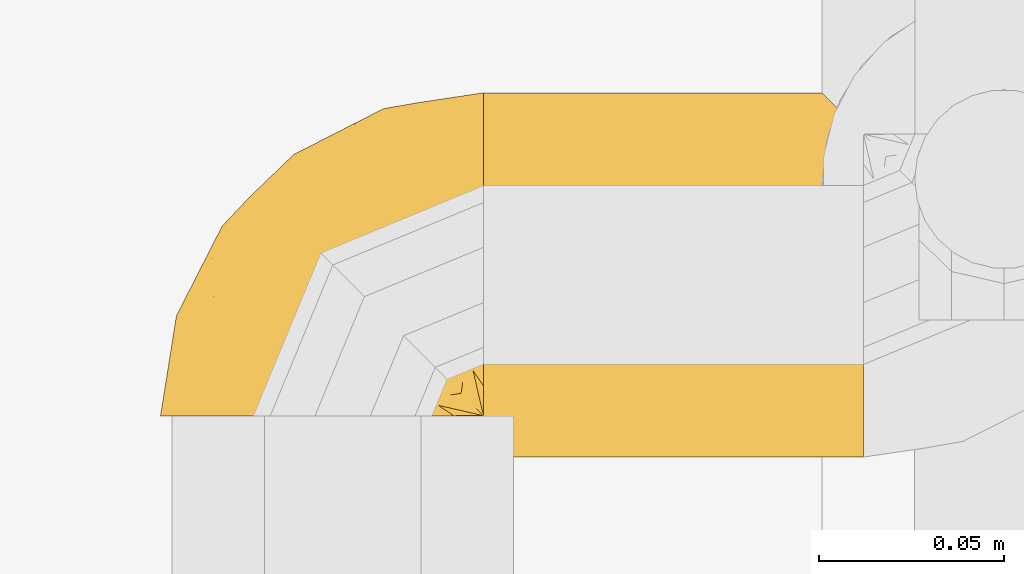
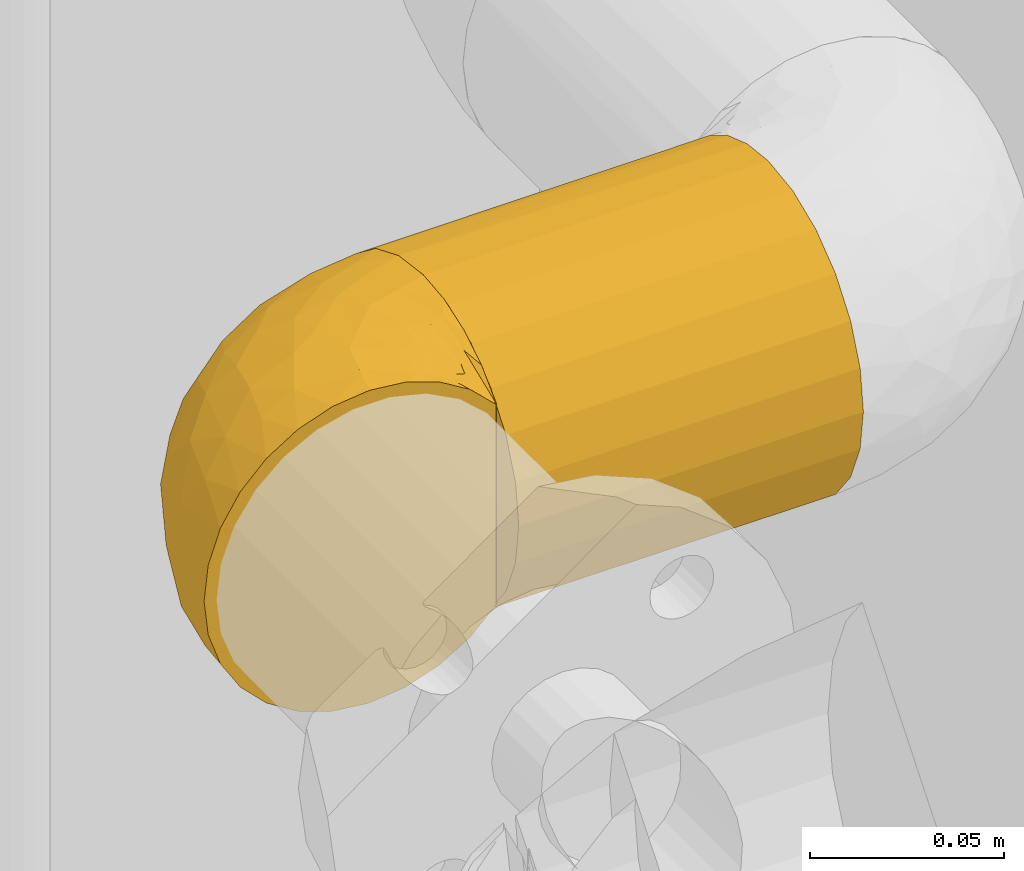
# One storey, part 40 of 94: 2 coverings.
"""IFC2X3 building model written with IfcOpenShell, lengths in millimetres."""

from ifc_helpers import new_model, entity, si_unit, converted_unit, derived_unit, direction, frame, origin, place, context, subcontext, project, spatial, faceted_brep, material, element, save


model = new_model("IFC2X3")

# Units and contexts
model_context = context("Model", 3, precision=0.01, world=origin(), true_north=direction((6.123031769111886e-17, 1.0)))
body_context = subcontext(model_context, "Body", "Model", "MODEL_VIEW")
ifc_project = project(units=[si_unit("LENGTHUNIT", "METRE", prefix="MILLI"), si_unit("AREAUNIT", "SQUARE_METRE"), si_unit("VOLUMEUNIT", "CUBIC_METRE"), converted_unit("PLANEANGLEUNIT", "DEGREE", entity("IfcRatioMeasure", 0.017453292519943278), si_unit("PLANEANGLEUNIT", "RADIAN"), dimensions=[0, 0, 0, 0, 0, 0, 0]), si_unit("MASSUNIT", "GRAM", prefix="KILO"), derived_unit("MASSDENSITYUNIT", [(si_unit("MASSUNIT", "GRAM", prefix="KILO"), 1), (si_unit("LENGTHUNIT", "METRE"), -3)]), derived_unit("IONCONCENTRATIONUNIT", [(si_unit("MASSUNIT", "GRAM", prefix="KILO"), 1), (si_unit("LENGTHUNIT", "METRE"), -3)]), derived_unit("MOMENTOFINERTIAUNIT", [(si_unit("LENGTHUNIT", "METRE"), 4)]), si_unit("TIMEUNIT", "SECOND"), si_unit("FREQUENCYUNIT", "HERTZ"), si_unit("THERMODYNAMICTEMPERATUREUNIT", "DEGREE_CELSIUS"), derived_unit("THERMALTRANSMITTANCEUNIT", [(si_unit("MASSUNIT", "GRAM", prefix="KILO"), 1), (si_unit("THERMODYNAMICTEMPERATUREUNIT", "KELVIN"), -1), (si_unit("TIMEUNIT", "SECOND"), -3)]), derived_unit("THERMALCONDUCTANCEUNIT", [(si_unit("MASSUNIT", "GRAM", prefix="KILO"), 1), (si_unit("THERMODYNAMICTEMPERATUREUNIT", "KELVIN"), -1), (si_unit("TIMEUNIT", "SECOND"), -3), (si_unit("LENGTHUNIT", "METRE"), 1)]), derived_unit("VOLUMETRICFLOWRATEUNIT", [(si_unit("LENGTHUNIT", "METRE"), 3), (si_unit("TIMEUNIT", "SECOND"), -1)]), derived_unit("MASSFLOWRATEUNIT", [(si_unit("MASSUNIT", "GRAM", prefix="KILO"), 1), (si_unit("TIMEUNIT", "SECOND"), -1)]), derived_unit("ROTATIONALFREQUENCYUNIT", [(si_unit("TIMEUNIT", "SECOND"), -1)]), si_unit("ELECTRICCURRENTUNIT", "AMPERE"), si_unit("ELECTRICVOLTAGEUNIT", "VOLT"), si_unit("POWERUNIT", "WATT"), si_unit("FORCEUNIT", "NEWTON", prefix="KILO"), si_unit("ILLUMINANCEUNIT", "LUX"), si_unit("LUMINOUSFLUXUNIT", "LUMEN"), si_unit("LUMINOUSINTENSITYUNIT", "CANDELA"), derived_unit("USERDEFINED", [(si_unit("MASSUNIT", "GRAM", prefix="KILO"), -1), (si_unit("LENGTHUNIT", "METRE"), -2), (si_unit("TIMEUNIT", "SECOND"), 3), (si_unit("LUMINOUSFLUXUNIT", "LUMEN"), 1)]), derived_unit("USERDEFINED", [(si_unit("MASSUNIT", "GRAM", prefix="KILO"), 1), (si_unit("TIMEUNIT", "SECOND"), -3), (si_unit("LENGTHUNIT", "METRE"), 3), (si_unit("ELECTRICCURRENTUNIT", "AMPERE"), -2)]), derived_unit("SOUNDPOWERUNIT", [(si_unit("MASSUNIT", "GRAM", prefix="KILO"), 1), (si_unit("TIMEUNIT", "SECOND"), -3), (si_unit("LENGTHUNIT", "METRE"), 2)]), derived_unit("SOUNDPRESSUREUNIT", [(si_unit("MASSUNIT", "GRAM", prefix="KILO"), 1), (si_unit("LENGTHUNIT", "METRE"), -1), (si_unit("TIMEUNIT", "SECOND"), -2)]), derived_unit("LINEARVELOCITYUNIT", [(si_unit("LENGTHUNIT", "METRE"), 1), (si_unit("TIMEUNIT", "SECOND"), -1)]), si_unit("PRESSUREUNIT", "PASCAL"), derived_unit("USERDEFINED", [(si_unit("MASSUNIT", "GRAM", prefix="KILO"), 1), (si_unit("LENGTHUNIT", "METRE"), -2), (si_unit("TIMEUNIT", "SECOND"), -2)]), derived_unit("LINEARFORCEUNIT", [(si_unit("MASSUNIT", "GRAM", prefix="KILO"), 1), (si_unit("TIMEUNIT", "SECOND"), -2)]), derived_unit("PLANARFORCEUNIT", [(si_unit("MASSUNIT", "GRAM", prefix="KILO"), 1), (si_unit("LENGTHUNIT", "METRE"), -1), (si_unit("TIMEUNIT", "SECOND"), -2)]), derived_unit("SPECIFICHEATCAPACITYUNIT", [(si_unit("THERMODYNAMICTEMPERATUREUNIT", "KELVIN"), -1), (si_unit("LENGTHUNIT", "METRE"), 2), (si_unit("TIMEUNIT", "SECOND"), -2)]), derived_unit("HEATINGVALUEUNIT", [(si_unit("LENGTHUNIT", "METRE"), 2), (si_unit("TIMEUNIT", "SECOND"), -2)]), derived_unit("VAPORPERMEABILITYUNIT", [(si_unit("LENGTHUNIT", "METRE"), -1), (si_unit("TIMEUNIT", "SECOND"), 1)]), derived_unit("DYNAMICVISCOSITYUNIT", [(si_unit("MASSUNIT", "GRAM", prefix="KILO"), 1), (si_unit("TIMEUNIT", "SECOND"), -1), (si_unit("LENGTHUNIT", "METRE"), -1)]), derived_unit("THERMALEXPANSIONCOEFFICIENTUNIT", [(si_unit("THERMODYNAMICTEMPERATUREUNIT", "KELVIN"), -1)]), derived_unit("MODULUSOFELASTICITYUNIT", [(si_unit("MASSUNIT", "GRAM", prefix="KILO"), 1), (si_unit("LENGTHUNIT", "METRE"), -1), (si_unit("TIMEUNIT", "SECOND"), -2)]), derived_unit("ISOTHERMALMOISTURECAPACITYUNIT", [(si_unit("LENGTHUNIT", "METRE"), 3), (si_unit("MASSUNIT", "GRAM", prefix="KILO"), -1)]), derived_unit("MOISTUREDIFFUSIVITYUNIT", [(si_unit("TIMEUNIT", "SECOND"), -1), (si_unit("LENGTHUNIT", "METRE"), 2)])], contexts=[model_context])

# Site, building, storey
site_placement = place(None, origin())
site = spatial("IfcSite", under=ifc_project, at=site_placement, Name="Default", CompositionType="ELEMENT")
building_placement = place(site_placement, origin())
building = spatial("IfcBuilding", under=site, at=building_placement, CompositionType="ELEMENT")
storey_placement = place(building_placement, origin())
storey = spatial("IfcBuildingStorey", under=building, at=storey_placement, Name="Niveau 0", CompositionType="ELEMENT", Elevation=0.0)

# Coverings
ifc_material = material(Name="Isolation - Laine minérale")
covering_1_placement = place(storey_placement, frame((-5929.413073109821, 9800.24516729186, 629.6137921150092)))
element("IfcCovering", 1, at=covering_1_placement, inside=storey, material=ifc_material, Name="Isolation des canalisations:Laine minérale", ObjectType="Isolation des canalisations:Laine minérale", PredefinedType="INSULATION", context=body_context, shape_type="Brep", body=[
    faceted_brep([(102.52263263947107, 61.510167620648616, -98.66860431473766), (102.52303490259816, 71.75428330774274, -95.13895567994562), (102.52368331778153, 80.97588518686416, -89.44945144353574), (102.52454627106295, 88.72559049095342, -81.87748755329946), (102.5316443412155, 88.72494168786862, -19.59563291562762), (102.53250725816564, 80.97527998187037, -12.023987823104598), (102.53315564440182, 71.75382109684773, -6.334737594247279), (102.533557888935, 61.50991986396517, -2.8052521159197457), (102.53369445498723, 50.725272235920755, -1.6069564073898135), (102.53350366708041, 38.009492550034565, -3.281020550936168), (102.53294430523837, 26.16027223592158, -8.18912827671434), (102.53205448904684, 15.985116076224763, -15.996800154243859), (102.53089485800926, 8.17744414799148, -26.171956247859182), (102.5295444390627, 3.2693363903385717, -38.02117648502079), (102.52809526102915, 1.5952722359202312, -50.73695608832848), (102.5266460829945, 3.2693363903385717, -63.45273569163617), (102.52529566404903, 8.17744414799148, -75.30195592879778), (102.52413603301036, 15.985116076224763, -85.47711202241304), (102.52324621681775, 26.16027223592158, -93.28478389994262), (102.52268685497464, 38.009492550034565, -98.19289162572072), (102.52249606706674, 50.725272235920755, -99.86695576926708), (0.002799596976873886, 93.2731003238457, -75.2902717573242), (0.0016399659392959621, 85.46542839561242, -85.46542785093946), (0.0007501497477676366, 75.29027223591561, -93.27309972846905), (0.00019078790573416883, 63.44105192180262, -98.18120745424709), (0.0, 50.72527223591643, -99.85527159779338), (0.00019078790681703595, 38.00949255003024, -98.18120745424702), (0.0007501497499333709, 26.160272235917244, -93.2730997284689), (0.0016399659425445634, 15.98511607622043, -85.46542785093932), (0.0027995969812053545, 8.17744414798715, -75.29027175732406), (0.0041500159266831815, 3.26933639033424, -63.44105152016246), (0.005599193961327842, 1.5952722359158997, -50.72527191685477), (0.007048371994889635, 3.26933639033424, -38.00949231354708), (0.008398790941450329, 8.17744414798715, -26.16027207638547), (0.009558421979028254, 15.98511607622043, -15.985115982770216), (0.01044823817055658, 26.160272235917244, -8.177444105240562), (0.011007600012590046, 38.00949255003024, -3.2693363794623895), (0.011198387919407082, 50.72527223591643, -1.5952722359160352), (0.01100760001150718, 63.44105192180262, -3.269336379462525), (0.010448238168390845, 75.29027223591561, -8.177444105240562), (0.009558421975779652, 85.46542839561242, -15.985115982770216), (0.008398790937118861, 93.2731003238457, -26.160272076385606), (0.007048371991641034, 98.18120808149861, -38.009492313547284), (0.005599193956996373, 99.85527223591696, -50.72527191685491), (0.0041500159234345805, 98.18120808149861, -63.441051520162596), (94.26239108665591, 96.98925680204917, -67.27084505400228), (92.1190248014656, 99.13346607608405, -59.126459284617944), (91.3980873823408, 99.85527223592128, -50.73568763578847), (97.76520659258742, 93.48564882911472, -74.92953422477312), (92.12080623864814, 99.13342237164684, -42.34482837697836), (94.2659877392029, 96.98908455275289, -34.20070155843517), (97.77059508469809, 93.4852707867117, -26.54262477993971)], [[[0, 1, 2, 3, 4, 5, 6, 7, 8, 9, 10, 11, 12, 13, 14, 15, 16, 17, 18, 19, 20]], [[21, 22, 23, 24, 25, 26, 27, 28, 29, 30, 31, 32, 33, 34, 35, 36, 37, 38, 39, 40, 41, 42, 43, 44]], [[30, 29, 16, 15]], [[31, 30, 15, 14]], [[29, 28, 17, 16]], [[19, 18, 27, 26]], [[20, 19, 26, 25]], [[28, 27, 18, 17]], [[0, 25, 24]], [[1, 24, 23]], [[2, 23, 22]], [[20, 25, 0]], [[0, 24, 1]], [[23, 2, 1]], [[22, 3, 2]], [[45, 21, 44]], [[44, 43, 46]], [[47, 46, 43]], [[48, 3, 21]], [[46, 45, 44]], [[48, 21, 45]], [[21, 3, 22]], [[49, 47, 43]], [[49, 43, 42]], [[50, 42, 41]], [[50, 49, 42]], [[4, 51, 41]], [[50, 41, 51]], [[41, 40, 4]], [[5, 40, 39]], [[6, 39, 38]], [[7, 38, 37]], [[5, 39, 6]], [[6, 38, 7]], [[37, 8, 7]], [[40, 5, 4]], [[9, 8, 37, 36]], [[10, 9, 36, 35]], [[35, 34, 11, 10]], [[13, 12, 33, 32]], [[14, 13, 32, 31]], [[34, 33, 12, 11]], [[47, 49, 50, 51, 4, 3, 48, 45, 46]]]),
])
covering_2_placement = place(storey_placement, frame((-6018.152716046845, 9811.375129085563, 629.6381228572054)))
element("IfcCovering", 2, at=covering_2_placement, inside=storey, material=ifc_material, Name="Isolation des canalisations:Laine minérale", ObjectType="Isolation des canalisations:Laine minérale", PredefinedType="INSULATION", context=body_context, shape_type="Brep", body=[
    faceted_brep([(39.80836428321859, 1.5953019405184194, -2.8275658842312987), (29.41718071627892, 1.5952938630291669, -6.463955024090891), (20.097630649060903, 1.5952866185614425, -12.320740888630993), (12.316039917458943, 1.5952805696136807, -20.103525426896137), (6.4616575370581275, 1.595276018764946, -29.42195140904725), (2.8273860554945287, 1.5952731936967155, -39.80915219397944), (1.5952722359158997, 1.5952722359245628, -50.73967043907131), (2.827565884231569, 1.5952731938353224, -61.68217955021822), (6.463955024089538, 1.5952760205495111, -72.07336311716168), (12.320740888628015, 1.5952805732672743, -81.3929131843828), (20.103525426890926, 1.5952866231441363, -89.17450391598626), (29.421951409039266, 1.595293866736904, -95.0288862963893), (39.80915219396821, 1.595301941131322, -98.66315777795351), (50.73967043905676, 1.5953104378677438, -99.89527159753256), (61.398878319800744, 1.5953187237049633, -98.72675970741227), (71.54747702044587, 1.5953266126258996, -95.27605635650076), (80.70449791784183, 1.5953337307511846, -89.7089380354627), (88.42802658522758, 1.5953397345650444, -82.30050128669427), (88.42830515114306, 1.595339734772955, -79.85623100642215), (88.4285076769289, 1.5953397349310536, -78.07917311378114), (88.42871020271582, 1.5953397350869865, -76.30211522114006), (88.42888110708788, 1.595339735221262, -74.80251870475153), (88.42905201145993, 1.5953397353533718, -73.30292218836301), (88.42939382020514, 1.5953397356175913, -70.30372915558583), (88.42973562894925, 1.5953397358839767, -67.30453612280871), (88.43007743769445, 1.5953397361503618, -64.30534309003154), (88.43041924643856, 1.5953397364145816, -61.3061500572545), (88.43059015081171, 1.595339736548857, -59.806553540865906), (88.43076105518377, 1.5953397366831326, -58.30695702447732), (88.43103962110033, 1.595339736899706, -55.86268674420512), (88.43131818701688, 1.5953397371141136, -53.418416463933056), (88.43159675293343, 1.595339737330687, -50.97414618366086), (88.43187531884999, 1.5953397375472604, -48.529875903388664), (88.43215388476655, 1.5953397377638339, -46.0856056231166), (88.43243245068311, 1.5953397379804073, -43.6413353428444), (88.43271101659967, 1.5953397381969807, -41.1970650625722), (88.43298958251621, 1.59533973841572, -38.75279478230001), (88.43326814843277, 1.5953397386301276, -36.30852450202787), (88.43354671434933, 1.595339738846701, -33.86425422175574), (88.43382528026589, 1.5953397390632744, -31.419983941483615), (88.43410384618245, 1.5953397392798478, -28.975713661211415), (88.43438241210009, 1.5953397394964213, -26.531443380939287), (88.43466097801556, 1.5953397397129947, -24.087173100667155), (88.43493954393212, 1.5953397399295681, -21.642902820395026), (88.43521810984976, 1.5953397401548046, -19.198632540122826), (80.69676603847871, 1.595333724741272, -11.775661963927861), (71.53619248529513, 1.59532660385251, -6.209217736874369), (61.38935748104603, 1.5953187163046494, -2.7616711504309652), (50.75087339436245, 1.595310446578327, -1.5952722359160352), (88.7416463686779, 1.9089597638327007, -82.3005370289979), (88.74080104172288, 9.642029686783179, -89.71783911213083), (88.74016679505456, 18.798747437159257, -95.28302203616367), (88.73977377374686, 28.9439038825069, -98.73157852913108), (88.73964065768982, 39.59531044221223, -99.8996023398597), (88.7398315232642, 52.316266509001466, -98.22485671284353), (88.74039111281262, 64.17031044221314, -93.31475097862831), (88.74128129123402, 74.349608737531, -85.50390072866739), (88.74244139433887, 82.16045903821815, -75.32460249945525), (88.74379236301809, 87.07056480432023, -63.470558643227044), (88.7452421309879, 88.74531044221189, -50.74960265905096), (88.74669189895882, 87.07056480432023, -38.02864667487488), (88.74804286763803, 82.16045903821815, -26.174602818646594), (88.74920297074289, 74.349608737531, -15.995304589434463), (88.75009314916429, 64.17031044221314, -8.184454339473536), (88.7506527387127, 52.316266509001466, -3.274348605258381), (88.75084360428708, 39.59531044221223, -1.599602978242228), (88.75071048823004, 28.94390388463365, -2.767626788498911), (88.75031746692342, 18.798747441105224, -6.2161832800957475), (88.74968322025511, 9.642029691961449, -11.781366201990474), (88.74883789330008, 1.908959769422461, -19.19866828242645), (88.74855932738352, 1.9089597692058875, -21.642938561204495), (88.74838842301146, 1.9089597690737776, -23.14253507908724), (88.74816368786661, 1.9089597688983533, -25.114468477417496), (88.74793895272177, 1.9089597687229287, -27.086401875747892), (88.747714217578, 1.90895976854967, -29.058335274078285), (88.74748948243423, 1.9089597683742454, -31.030268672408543), (88.74726474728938, 1.908959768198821, -33.00220207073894), (88.74704001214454, 1.9089597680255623, -34.97413546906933), (88.74681527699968, 1.9089597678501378, -36.946068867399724), (88.74659054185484, 1.9089597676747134, -38.91800226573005), (88.74636580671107, 1.9089597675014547, -40.889935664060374), (88.74614107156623, 1.9089597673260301, -42.86186906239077), (88.74591633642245, 1.9089597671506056, -44.83380246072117), (88.74569160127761, 1.9089597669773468, -46.805735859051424), (88.74546686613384, 1.9089597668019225, -48.77766925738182), (88.745242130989, 1.908959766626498, -50.74960265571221), (88.74501739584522, 1.9089597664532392, -52.7215360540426), (88.74479266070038, 1.9089597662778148, -54.69346945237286), (88.74456792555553, 1.9089597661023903, -56.66540285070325), (88.74434319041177, 1.9089597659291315, -58.63733624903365), (88.74411845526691, 1.908959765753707, -60.60926964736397), (88.74389372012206, 1.9089597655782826, -62.5812030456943), (88.7436689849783, 1.9089597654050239, -64.5531364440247), (88.74344424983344, 1.9089597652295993, -66.52506984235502), (88.74310244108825, 1.908959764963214, -69.52426287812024), (88.74276063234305, 1.9089597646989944, -72.52345591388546), (88.74248206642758, 1.908959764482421, -74.96772619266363), (88.74220350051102, 1.9089597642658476, -77.41199647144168), (88.74192493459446, 1.9089597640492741, -79.85626675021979), (88.53121388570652, 1.8242557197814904, -47.741504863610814), (88.52220161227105, 1.8156919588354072, -49.66207763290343), (88.52241416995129, 1.8147909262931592, -40.02193294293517), (88.5292105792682, 1.821292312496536, -37.93201027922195), (88.54058279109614, 1.8332471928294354, -53.49381821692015), (88.53805484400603, 1.8280844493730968, -24.244826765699), (88.49468897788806, 1.779345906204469, -20.795673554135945), (88.51712547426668, 1.8115602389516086, -59.05676567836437), (88.5203014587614, 1.8171025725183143, -78.63410645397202), (88.52248274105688, 1.8190568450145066, -76.79466273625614), (88.51885259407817, 1.8098984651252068, -30.124737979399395), (88.52929521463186, 1.820289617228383, -28.090985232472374), (88.50393755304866, 1.7965299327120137, -57.08483073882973), (88.52815596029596, 1.8230746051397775, -63.567145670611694), (88.53189964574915, 1.8263646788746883, -61.6817744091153), (88.51413677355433, 1.8091714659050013, -65.53907746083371), (88.52899897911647, 1.8225950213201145, -51.73554485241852), (88.52671111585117, 1.8171025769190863, -22.392711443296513), (88.5225009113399, 1.819485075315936, -80.46730937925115), (88.53718058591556, 1.8295058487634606, -45.81974491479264), (88.53935863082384, 1.8302423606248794, -33.98814467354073), (88.53439623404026, 1.8259563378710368, -35.88028673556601), (88.53233604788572, 1.8273579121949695, -67.39028944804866), (88.53444527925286, 1.8268446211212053, -43.94266570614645), (88.53771053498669, 1.8279644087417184, -26.10041099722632), (88.5270751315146, 1.8171025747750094, -19.19864300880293), (88.49844509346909, 1.7479834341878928, -19.198639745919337), (88.46981505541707, 1.6788642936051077, -19.19863648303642), (88.51988360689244, 1.8171025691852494, -82.30051175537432), (88.58900272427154, 1.845732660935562, -82.3005196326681), (88.65812184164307, 1.8743627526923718, -82.30052750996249), (88.50786416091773, 1.8027221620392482, -69.28271089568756), (88.53252445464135, 1.823808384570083, -32.05923504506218), (88.52192440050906, 1.8160551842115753, -55.246547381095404), (88.52567047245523, 1.8182905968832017, -42.00422087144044), (88.50333249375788, 1.7978420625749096, -72.07560902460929), (88.52475549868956, 1.8209659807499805, -74.0527315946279), (88.66531336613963, 1.8743627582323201, -19.198658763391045), (88.5961942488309, 1.8457326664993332, -19.198650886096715), (88.46262353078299, 1.678864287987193, -82.30050522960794), (88.4912535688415, 1.7479834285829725, -82.30050849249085), (85.21547066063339, 23.495274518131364, -97.28419472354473), (85.93129678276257, 13.747819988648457, -92.75038974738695), (81.07275177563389, 22.409836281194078, -97.28372262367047), (83.12822402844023, 10.562581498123, -91.53866223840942), (79.23964383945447, 37.04979263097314, -99.89851965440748), (55.8306912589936, 20.595308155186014, -99.89585180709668), (66.39007783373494, 16.020186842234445, -98.55682739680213), (67.93507634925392, 9.261722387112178, -97.27905705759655), (69.73964702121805, 34.50427481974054, -99.89743696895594), (80.66909527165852, 9.667906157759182, -92.08861708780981), (79.78424769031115, 7.202962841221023, -91.53037748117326), (74.31562813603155, 23.94477676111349, -98.55758665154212), (66.84938288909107, 5.119438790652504, -97.27893325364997), (76.59854948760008, 4.40294863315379, -92.74285109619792), (79.64397043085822, 17.541560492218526, -95.80321445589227), (52.73759270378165, 9.051677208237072, -99.89549929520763), (53.285180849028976, 11.095309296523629, -99.89556170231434), (73.60641638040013, 16.728881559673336, -97.01052064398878), (62.78516914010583, 27.549791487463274, -99.8966443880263), (73.87474920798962, 12.071603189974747, -95.7271229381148), (75.22717219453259, 47.954939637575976, -98.80910346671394), (78.87531086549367, 57.54114584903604, -96.15715748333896), (67.00025556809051, 54.07988134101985, -96.15580455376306), (37.51975316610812, 72.10113121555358, -50.743764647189), (61.81440748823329, 84.47988309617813, -50.74653343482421), (53.87399671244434, 80.2480536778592, -61.15116206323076), (67.10055928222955, 82.14720762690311, -69.55602548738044), (25.780191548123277, 13.851455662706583, -92.36345595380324), (36.23888461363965, 15.165308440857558, -97.13784589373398), (29.56078771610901, 60.77768250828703, -68.84117496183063), (30.767583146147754, 55.38586642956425, -77.71935791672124), (15.290469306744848, 43.897390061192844, -65.87117730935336), (71.31280747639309, 86.12652123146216, -59.79675239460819), (53.15798416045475, 33.37334515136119, -98.92756753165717), (65.90318880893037, 44.0011224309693, -98.83460123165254), (75.2864096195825, 77.40376868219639, -80.66869325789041), (71.16165474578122, 67.2015954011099, -89.74091646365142), (47.23868877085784, 73.23171908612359, -70.98032046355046), (37.095210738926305, 52.82914246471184, -85.50464261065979), (44.510459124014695, 48.878991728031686, -91.98013609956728), (33.70026964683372, 40.60724433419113, -90.08283367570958), (44.046311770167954, 28.769971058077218, -97.7662492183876), (30.03931979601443, 27.44846663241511, -92.36394180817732), (18.308362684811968, 19.800375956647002, -85.50249988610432), (43.500556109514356, 64.74741750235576, -79.74128592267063), (5.86067861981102, 28.526110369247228, -50.74015655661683), (7.039539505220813, 22.715624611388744, -66.98021215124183), (25.61077444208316, 42.31751132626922, -82.95174243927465), (15.883913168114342, 33.68384026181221, -76.89837714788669), (10.597417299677, 16.806982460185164, -76.89777490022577), (38.502414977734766, 71.07861068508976, -62.41327123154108), (25.344187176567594, 60.33250898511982, -59.14146465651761), (59.13306948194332, 72.66774963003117, -80.66685237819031), (53.843073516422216, 58.89973894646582, -90.35931628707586), (18.239411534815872, 52.82077447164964, -50.74156732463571), (52.689431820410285, 43.46545542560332, -96.76831952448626), (67.10655292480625, 82.14766609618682, -31.938246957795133), (71.3149955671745, 86.12657846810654, -41.69864368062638), (47.24282936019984, 73.23129470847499, -30.50913531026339), (59.14438361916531, 72.66962175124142, -20.825604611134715), (75.29588998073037, 77.40424084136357, -20.827445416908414), (37.093723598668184, 52.83847618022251, -15.996042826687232), (43.517803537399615, 64.75605345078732, -21.748739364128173), (30.7898141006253, 55.414532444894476, -23.77838653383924), (38.51218060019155, 71.08305979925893, -39.072201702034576), (53.87680560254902, 80.24816008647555, -40.33972654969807), (36.23678492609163, 15.170039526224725, -4.354099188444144), (79.2508467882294, 37.04979263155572, -1.5985202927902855), (75.2381269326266, 47.95493963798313, -2.687021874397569), (65.91414960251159, 44.00112243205, -2.659398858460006), (7.038132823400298, 22.714680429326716, -34.51382417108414), (71.17054264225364, 67.20159540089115, -11.754281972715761), (67.01060574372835, 54.079881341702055, -5.338445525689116), (78.88566103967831, 57.541145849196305, -5.339799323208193), (30.035236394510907, 27.454672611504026, -9.131256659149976), (25.774978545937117, 13.854028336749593, -9.13077158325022), (53.84549946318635, 58.89798233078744, -11.133354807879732), (25.357992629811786, 60.34782648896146, -42.353032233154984), (29.562374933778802, 60.780219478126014, -32.65360191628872), (10.594242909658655, 16.809118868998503, -24.598537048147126), (44.05520552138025, 28.78674470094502, -3.7258959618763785), (52.70334243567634, 43.47308479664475, -4.724000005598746), (44.50126799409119, 48.87626491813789, -9.515933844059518), (15.288940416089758, 43.900868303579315, -35.62998882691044), (15.881188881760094, 33.687379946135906, -24.599139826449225), (18.303452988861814, 19.80369255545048, -15.993902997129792), (25.607457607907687, 42.34244745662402, -18.55899270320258), (55.841894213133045, 20.59530815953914, -1.5958524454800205), (69.75084997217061, 34.50427482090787, -1.5974376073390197), (52.748795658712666, 9.051677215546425, -1.5954999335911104), (53.296383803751, 11.095309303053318, -1.5955623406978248), (53.17253851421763, 33.380916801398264, -2.564007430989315), (62.79637209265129, 27.549791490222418, -1.5966450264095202), (33.68050955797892, 40.612528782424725, -11.423678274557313), (81.0833586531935, 22.409835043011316, -4.213735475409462), (78.27077341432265, 16.464293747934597, -5.767057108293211), (74.32616108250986, 23.943322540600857, -2.938575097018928), (85.2260774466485, 23.495273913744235, -4.214207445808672), (85.94087033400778, 13.74781942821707, -8.748175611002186), (83.13720143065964, 10.564926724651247, -9.957813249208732), (82.68641427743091, 7.6567099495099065, -11.38138467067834), (73.6223397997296, 16.72350343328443, -4.487965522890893), (79.76239640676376, 7.216568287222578, -9.944185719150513), (67.923732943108, 9.26322984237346, -4.208225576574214), (66.83863157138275, 5.119641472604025, -4.208101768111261), (76.58924931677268, 4.40593393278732, -8.741999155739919), (66.40315283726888, 16.018664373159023, -2.9379170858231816), (72.78893801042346, 10.69218648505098, -5.687220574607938)], [[[0, 1, 2, 3, 4, 5, 6, 7, 8, 9, 10, 11, 12, 13, 14, 15, 16, 17, 18, 19, 20, 21, 22, 23, 24, 25, 26, 27, 28, 29, 30, 31, 32, 33, 34, 35, 36, 37, 38, 39, 40, 41, 42, 43, 44, 45, 46, 47, 48]], [[49, 50, 51, 52, 53, 54, 55, 56, 57, 58, 59, 60, 61, 62, 63, 64, 65, 66, 67, 68, 69, 70, 71, 72, 73, 74, 75, 76, 77, 78, 79, 80, 81, 82, 83, 84, 85, 86, 87, 88, 89, 90, 91, 92, 93, 94, 95, 96, 97, 98]], [[99, 100, 84]], [[101, 102, 36]], [[86, 103, 87]], [[72, 71, 104]], [[105, 70, 69]], [[28, 27, 106]], [[19, 107, 108]], [[109, 74, 110]], [[29, 28, 111]], [[26, 112, 113]], [[108, 97, 96]], [[114, 93, 92]], [[103, 86, 115]], [[97, 107, 98]], [[116, 71, 70]], [[107, 18, 117]], [[79, 102, 101]], [[99, 118, 33]], [[77, 119, 120]], [[121, 93, 114]], [[112, 91, 113]], [[89, 111, 106]], [[41, 40, 110]], [[107, 97, 108]], [[33, 118, 122]], [[92, 91, 112]], [[38, 120, 119]], [[85, 115, 86]], [[70, 105, 116]], [[72, 123, 73]], [[105, 124, 125, 126, 44]], [[117, 18, 17]], [[42, 116, 43]], [[117, 127, 128, 129, 49]], [[110, 123, 41]], [[43, 116, 105]], [[121, 24, 130]], [[25, 114, 112]], [[114, 25, 24]], [[104, 123, 72]], [[92, 112, 114]], [[104, 116, 42]], [[25, 112, 26]], [[110, 73, 123]], [[37, 120, 38]], [[41, 123, 42]], [[75, 74, 109]], [[131, 76, 75]], [[119, 131, 38]], [[109, 110, 40]], [[109, 40, 39]], [[74, 73, 110]], [[123, 104, 42]], [[116, 104, 71]], [[27, 26, 113]], [[113, 90, 106]], [[88, 87, 132]], [[113, 106, 27]], [[77, 76, 119]], [[132, 111, 88]], [[106, 111, 28]], [[132, 29, 111]], [[88, 111, 89]], [[89, 106, 90]], [[113, 91, 90]], [[131, 119, 76]], [[39, 38, 131]], [[120, 37, 102]], [[131, 109, 39]], [[109, 131, 75]], [[79, 78, 102]], [[78, 120, 102]], [[78, 77, 120]], [[122, 81, 133]], [[37, 36, 102]], [[34, 122, 133]], [[80, 79, 101]], [[35, 101, 36]], [[132, 30, 29]], [[81, 80, 133]], [[30, 103, 115]], [[31, 30, 115]], [[87, 103, 132]], [[100, 115, 85]], [[32, 31, 100]], [[115, 100, 31]], [[33, 32, 99]], [[118, 82, 122]], [[100, 85, 84]], [[99, 83, 118]], [[82, 118, 83]], [[34, 33, 122]], [[83, 99, 84]], [[100, 99, 32]], [[35, 34, 133]], [[122, 82, 81]], [[133, 101, 35]], [[101, 133, 80]], [[134, 95, 94]], [[24, 121, 114]], [[132, 103, 30]], [[121, 94, 93]], [[94, 121, 130]], [[98, 107, 117]], [[108, 21, 20, 19]], [[22, 135, 134]], [[21, 135, 22]], [[134, 135, 95]], [[108, 96, 135]], [[108, 135, 21]], [[135, 96, 95]], [[134, 23, 22]], [[130, 23, 134]], [[43, 105, 44]], [[105, 69, 136, 137, 124]], [[98, 117, 49]], [[117, 17, 138, 139, 127]], [[19, 18, 107]], [[94, 130, 134]], [[23, 130, 24]], [[140, 141, 142]], [[143, 129, 128, 127]], [[53, 52, 144]], [[145, 146, 147]], [[142, 148, 144]], [[149, 127, 150]], [[51, 140, 52]], [[142, 151, 148]], [[52, 140, 144]], [[129, 143, 141]], [[15, 14, 152]], [[147, 150, 153]], [[154, 141, 143]], [[150, 138, 153]], [[15, 152, 153]], [[17, 16, 138]], [[14, 13, 155, 156]], [[151, 154, 157]], [[158, 157, 146]], [[156, 147, 152]], [[15, 153, 16]], [[50, 49, 129]], [[50, 129, 141]], [[141, 51, 50]], [[159, 147, 146]], [[145, 147, 156]], [[138, 16, 153]], [[149, 157, 154]], [[150, 127, 139, 138]], [[141, 140, 51]], [[144, 140, 142]], [[156, 152, 14]], [[153, 152, 147]], [[148, 151, 158]], [[159, 146, 157]], [[146, 145, 158]], [[154, 151, 142]], [[158, 151, 157]], [[127, 149, 143]], [[159, 149, 150]], [[149, 159, 157]], [[147, 159, 150]], [[141, 154, 142]], [[154, 143, 149]], [[155, 13, 12]], [[53, 144, 160]], [[161, 55, 54]], [[160, 162, 161]], [[163, 164, 165]], [[57, 166, 58]], [[167, 168, 11]], [[169, 170, 171]], [[58, 172, 59]], [[158, 173, 174]], [[175, 57, 56]], [[176, 56, 55]], [[165, 166, 177]], [[57, 175, 166]], [[176, 55, 161]], [[178, 179, 180]], [[181, 145, 168]], [[168, 182, 181]], [[183, 182, 167]], [[183, 10, 9]], [[168, 145, 156, 155]], [[168, 12, 11]], [[169, 184, 170]], [[7, 185, 186]], [[187, 183, 188]], [[189, 183, 9]], [[171, 188, 186]], [[163, 190, 191]], [[187, 188, 170]], [[192, 176, 193]], [[9, 8, 189]], [[186, 8, 7]], [[7, 6, 185]], [[188, 189, 186]], [[169, 177, 184]], [[171, 185, 194]], [[193, 176, 162]], [[11, 10, 167]], [[144, 174, 160]], [[155, 12, 168]], [[175, 176, 192]], [[177, 166, 192]], [[172, 166, 165]], [[182, 187, 180]], [[181, 195, 173]], [[186, 189, 8]], [[183, 189, 188]], [[183, 167, 10]], [[168, 167, 182]], [[185, 171, 186]], [[191, 171, 194]], [[195, 193, 162]], [[193, 178, 184]], [[174, 162, 160]], [[181, 182, 180]], [[184, 177, 192]], [[177, 190, 165]], [[177, 169, 190]], [[172, 165, 164]], [[59, 172, 164]], [[58, 166, 172]], [[191, 190, 169]], [[163, 165, 190]], [[171, 191, 169]], [[163, 191, 194]], [[193, 184, 192]], [[181, 173, 145]], [[184, 178, 170]], [[187, 170, 178]], [[171, 170, 188]], [[180, 187, 178]], [[183, 187, 182]], [[179, 178, 193]], [[180, 179, 181]], [[193, 195, 179]], [[181, 179, 195]], [[54, 53, 160]], [[176, 161, 162]], [[54, 160, 161]], [[174, 144, 148]], [[158, 174, 148]], [[195, 162, 174]], [[176, 175, 56]], [[166, 175, 192]], [[174, 173, 195]], [[145, 173, 158]], [[61, 60, 196]], [[59, 164, 197]], [[196, 198, 199]], [[196, 199, 200]], [[201, 202, 203]], [[204, 198, 205]], [[198, 202, 199]], [[1, 0, 206]], [[207, 208, 209]], [[185, 5, 210]], [[211, 212, 213]], [[214, 215, 206]], [[64, 213, 208]], [[213, 64, 63]], [[4, 210, 5]], [[211, 216, 212]], [[217, 218, 204]], [[64, 208, 65]], [[4, 3, 219]], [[220, 221, 222]], [[62, 61, 200]], [[210, 4, 219]], [[6, 5, 185]], [[211, 63, 62]], [[203, 223, 224]], [[3, 2, 225]], [[220, 214, 206]], [[224, 219, 225]], [[2, 1, 215]], [[203, 226, 201]], [[206, 227, 220]], [[209, 228, 207]], [[223, 210, 224]], [[215, 225, 2]], [[226, 225, 214]], [[0, 48, 229]], [[206, 229, 230, 227]], [[210, 223, 185]], [[200, 211, 62]], [[0, 229, 206]], [[199, 202, 216]], [[164, 205, 197]], [[198, 204, 218]], [[231, 227, 232]], [[221, 212, 216]], [[206, 215, 1]], [[225, 215, 214]], [[225, 219, 3]], [[210, 219, 224]], [[217, 223, 218]], [[185, 223, 194]], [[199, 216, 211]], [[226, 233, 201]], [[222, 201, 233]], [[220, 231, 221]], [[198, 196, 205]], [[218, 203, 202]], [[197, 205, 196]], [[163, 205, 164]], [[196, 60, 197]], [[59, 197, 60]], [[205, 163, 204]], [[217, 163, 194]], [[163, 217, 204]], [[223, 217, 194]], [[218, 202, 198]], [[209, 232, 228]], [[216, 202, 201]], [[223, 203, 218]], [[226, 203, 224]], [[225, 226, 224]], [[233, 226, 214]], [[220, 233, 214]], [[201, 222, 216]], [[220, 222, 233]], [[221, 216, 222]], [[211, 213, 63]], [[208, 213, 212]], [[208, 212, 209]], [[208, 207, 65]], [[212, 221, 209]], [[209, 221, 231]], [[196, 200, 61]], [[211, 200, 199]], [[227, 231, 220]], [[209, 231, 232]], [[66, 65, 207]], [[228, 234, 207]], [[235, 234, 236]], [[67, 237, 238]], [[239, 136, 238]], [[240, 137, 239]], [[240, 241, 242]], [[66, 237, 67]], [[136, 69, 68]], [[136, 68, 238]], [[243, 227, 230]], [[67, 238, 68]], [[207, 234, 237]], [[46, 244, 47]], [[228, 236, 234]], [[243, 244, 245]], [[47, 244, 230]], [[246, 247, 241]], [[236, 232, 241]], [[227, 243, 246]], [[247, 245, 242]], [[45, 44, 126]], [[234, 239, 238]], [[245, 46, 45]], [[45, 126, 245]], [[47, 230, 229, 48]], [[242, 126, 125]], [[126, 242, 245]], [[240, 124, 137]], [[207, 237, 66]], [[238, 237, 234]], [[245, 244, 46]], [[230, 244, 243]], [[227, 246, 232]], [[235, 236, 241]], [[236, 228, 232]], [[247, 246, 243]], [[232, 246, 241]], [[240, 239, 235]], [[136, 239, 137]], [[124, 240, 125]], [[125, 240, 242]], [[240, 235, 241]], [[234, 235, 239]], [[245, 247, 243]], [[241, 247, 242]]]),
])

save(model, "model.ifc")
